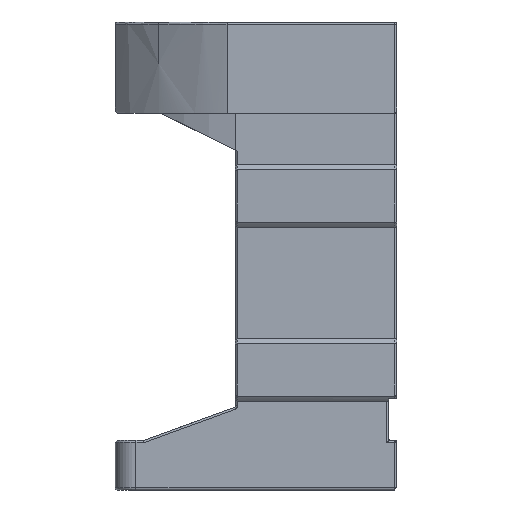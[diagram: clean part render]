
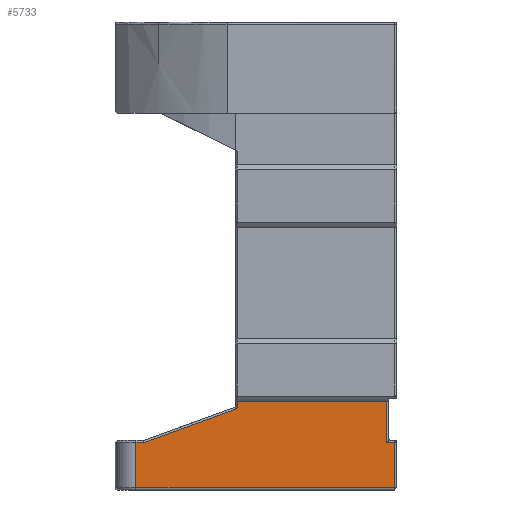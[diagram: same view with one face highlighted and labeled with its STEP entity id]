
A CAD part, left-side view. The second image highlights one B-rep face of the part: STEP entity #5733.
In plain terms, the highlighted planar face has unit normal (-1, 0, 0).
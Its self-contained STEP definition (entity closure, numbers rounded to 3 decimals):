
#140 = AXIS2_PLACEMENT_3D ( 'NONE', #3947, #8212, #4607 ) ;
#172 = CIRCLE ( 'NONE', #140, 1. ) ;
#336 = ORIENTED_EDGE ( 'NONE', *, *, #5496, .T. ) ;
#551 = CARTESIAN_POINT ( 'NONE',  ( -43., -31.5, 5.5 ) ) ;
#717 = CARTESIAN_POINT ( 'NONE',  ( -43., 26.746, 5.56 ) ) ;
#880 = LINE ( 'NONE', #4087, #5917 ) ;
#991 = VERTEX_POINT ( 'NONE', #4577 ) ;
#1028 = CARTESIAN_POINT ( 'NONE',  ( -43., 5.5, 14.35 ) ) ;
#1080 = VECTOR ( 'NONE', #3385, 1000. ) ;
#1268 = ORIENTED_EDGE ( 'NONE', *, *, #5738, .T. ) ;
#1556 = VERTEX_POINT ( 'NONE', #6294 ) ;
#1612 = CARTESIAN_POINT ( 'NONE',  ( -43., -31.5, 5.5 ) ) ;
#1645 = CARTESIAN_POINT ( 'NONE',  ( -43., -31.5, 6. ) ) ;
#1733 = DIRECTION ( 'NONE',  ( 0., 1., 0. ) ) ;
#1858 = LINE ( 'NONE', #1612, #4974 ) ;
#1859 = CARTESIAN_POINT ( 'NONE',  ( -43., 29., -5.5 ) ) ;
#1916 = ORIENTED_EDGE ( 'NONE', *, *, #5692, .T. ) ;
#1971 = VECTOR ( 'NONE', #5094, 1000. ) ;
#2083 = VERTEX_POINT ( 'NONE', #4807 ) ;
#2107 = ORIENTED_EDGE ( 'NONE', *, *, #5593, .T. ) ;
#2609 = LINE ( 'NONE', #3722, #3023 ) ;
#2882 = CARTESIAN_POINT ( 'NONE',  ( -43., 4.5, 15.45 ) ) ;
#3005 = ORIENTED_EDGE ( 'NONE', *, *, #5640, .T. ) ;
#3023 = VECTOR ( 'NONE', #5010, 1000. ) ;
#3128 = VECTOR ( 'NONE', #7047, 1000. ) ;
#3230 = VERTEX_POINT ( 'NONE', #1859 ) ;
#3282 = VERTEX_POINT ( 'NONE', #551 ) ;
#3332 = CARTESIAN_POINT ( 'NONE',  ( -43., 27.088, 5.5 ) ) ;
#3339 = LINE ( 'NONE', #7072, #3128 ) ;
#3372 = VERTEX_POINT ( 'NONE', #3332 ) ;
#3385 = DIRECTION ( 'NONE',  ( 0., -1., 0. ) ) ;
#3408 = DIRECTION ( 'NONE',  ( 1., 0., 0. ) ) ;
#3439 = VECTOR ( 'NONE', #5577, 1000. ) ;
#3626 = CARTESIAN_POINT ( 'NONE',  ( -43., -33.5, 5.5 ) ) ;
#3689 = DIRECTION ( 'NONE',  ( 0., 1., 0. ) ) ;
#3722 = CARTESIAN_POINT ( 'NONE',  ( -43., 4.5, 6. ) ) ;
#3947 = CARTESIAN_POINT ( 'NONE',  ( -43., 27.088, 6.5 ) ) ;
#4087 = CARTESIAN_POINT ( 'NONE',  ( -43., -33.5, 6. ) ) ;
#4577 = CARTESIAN_POINT ( 'NONE',  ( -43., 5.158, 13.41 ) ) ;
#4607 = DIRECTION ( 'NONE',  ( 0., 1., 0. ) ) ;
#4690 = CARTESIAN_POINT ( 'NONE',  ( -43., -31.5, 15.45 ) ) ;
#4711 = PLANE ( 'NONE',  #6678 ) ;
#4807 = CARTESIAN_POINT ( 'NONE',  ( -43., 29., 5.5 ) ) ;
#4873 = LINE ( 'NONE', #7116, #1080 ) ;
#4974 = VECTOR ( 'NONE', #6755, 1000. ) ;
#5010 = DIRECTION ( 'NONE',  ( 0., 0., -1. ) ) ;
#5063 = LINE ( 'NONE', #7624, #6863 ) ;
#5094 = DIRECTION ( 'NONE',  ( 0., 0.94, -0.342 ) ) ;
#5205 = ORIENTED_EDGE ( 'NONE', *, *, #5600, .T. ) ;
#5251 = VERTEX_POINT ( 'NONE', #717 ) ;
#5282 = VERTEX_POINT ( 'NONE', #7200 ) ;
#5398 = EDGE_CURVE ( 'NONE', #8288, #3282, #1858, .T. ) ;
#5408 = ORIENTED_EDGE ( 'NONE', *, *, #5649, .T. ) ;
#5447 = EDGE_CURVE ( 'NONE', #3282, #7389, #7975, .T. ) ;
#5454 = LINE ( 'NONE', #5701, #1971 ) ;
#5458 = EDGE_CURVE ( 'NONE', #7389, #6423, #6406, .T. ) ;
#5496 = EDGE_CURVE ( 'NONE', #6423, #1556, #2609, .T. ) ;
#5509 = EDGE_CURVE ( 'NONE', #1556, #991, #5830, .T. ) ;
#5577 = DIRECTION ( 'NONE',  ( 0., 0., 1. ) ) ;
#5593 = EDGE_CURVE ( 'NONE', #991, #5251, #5454, .T. ) ;
#5600 = EDGE_CURVE ( 'NONE', #5251, #3372, #172, .T. ) ;
#5640 = EDGE_CURVE ( 'NONE', #3372, #2083, #5063, .T. ) ;
#5649 = EDGE_CURVE ( 'NONE', #2083, #3230, #3339, .T. ) ;
#5653 = DIRECTION ( 'NONE',  ( 1., 0., 0. ) ) ;
#5692 = EDGE_CURVE ( 'NONE', #3230, #5282, #4873, .T. ) ;
#5701 = CARTESIAN_POINT ( 'NONE',  ( -43., 26.746, 5.56 ) ) ;
#5733 = ADVANCED_FACE ( 'NONE', ( #7682 ), #4711, .F. ) ;
#5738 = EDGE_CURVE ( 'NONE', #5282, #8288, #880, .T. ) ;
#5830 = CIRCLE ( 'NONE', #6436, 1. ) ;
#5855 = ORIENTED_EDGE ( 'NONE', *, *, #5398, .T. ) ;
#5863 = DIRECTION ( 'NONE',  ( 0., 1., 0. ) ) ;
#5917 = VECTOR ( 'NONE', #7141, 1000. ) ;
#5945 = CARTESIAN_POINT ( 'NONE',  ( -43., 43., 6. ) ) ;
#5968 = ORIENTED_EDGE ( 'NONE', *, *, #5458, .T. ) ;
#5990 = ORIENTED_EDGE ( 'NONE', *, *, #5509, .T. ) ;
#6189 = CARTESIAN_POINT ( 'NONE',  ( -43., -34., 15.45 ) ) ;
#6294 = CARTESIAN_POINT ( 'NONE',  ( -43., 4.5, 14.35 ) ) ;
#6406 = LINE ( 'NONE', #6189, #7781 ) ;
#6423 = VERTEX_POINT ( 'NONE', #2882 ) ;
#6436 = AXIS2_PLACEMENT_3D ( 'NONE', #1028, #5653, #1733 ) ;
#6573 = EDGE_LOOP ( 'NONE', ( #5855, #7806, #5968, #336, #5990, #2107, #5205, #3005, #5408, #1916, #1268 ) ) ;
#6678 = AXIS2_PLACEMENT_3D ( 'NONE', #5945, #3408, #7723 ) ;
#6755 = DIRECTION ( 'NONE',  ( 0., 1., 0. ) ) ;
#6863 = VECTOR ( 'NONE', #5863, 1000. ) ;
#7047 = DIRECTION ( 'NONE',  ( 0., 0., -1. ) ) ;
#7072 = CARTESIAN_POINT ( 'NONE',  ( -43., 29., 6. ) ) ;
#7116 = CARTESIAN_POINT ( 'NONE',  ( -43., 43., -5.5 ) ) ;
#7141 = DIRECTION ( 'NONE',  ( 0., 0., 1. ) ) ;
#7200 = CARTESIAN_POINT ( 'NONE',  ( -43., -33.5, -5.5 ) ) ;
#7389 = VERTEX_POINT ( 'NONE', #4690 ) ;
#7624 = CARTESIAN_POINT ( 'NONE',  ( -43., 29., 5.5 ) ) ;
#7682 = FACE_OUTER_BOUND ( 'NONE', #6573, .T. ) ;
#7723 = DIRECTION ( 'NONE',  ( 0., 1., 0. ) ) ;
#7781 = VECTOR ( 'NONE', #3689, 1000. ) ;
#7806 = ORIENTED_EDGE ( 'NONE', *, *, #5447, .T. ) ;
#7975 = LINE ( 'NONE', #1645, #3439 ) ;
#8212 = DIRECTION ( 'NONE',  ( 1., 0., 0. ) ) ;
#8288 = VERTEX_POINT ( 'NONE', #3626 ) ;
